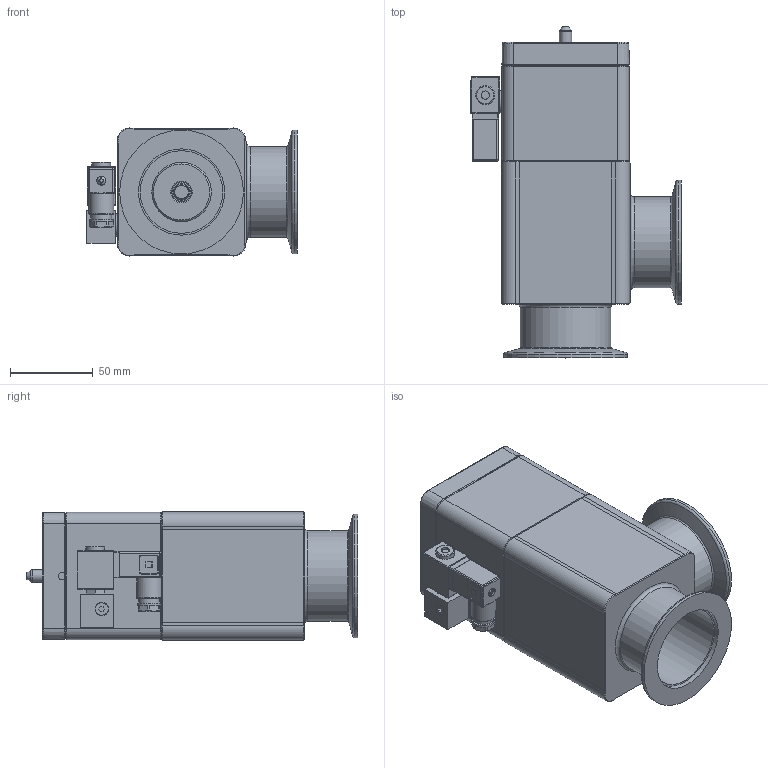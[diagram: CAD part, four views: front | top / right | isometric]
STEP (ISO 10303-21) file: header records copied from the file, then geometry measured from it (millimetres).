
FILE_DESCRIPTION(/* description */ (''),/* implementation_level */ '2;1');
FILE_NAME(/* name */ '1020447636_203.stp',/* time_stamp */ '2013-08-26T14:31:52+02:00',/* author */ (''),/* organization */ (''),/* preprocessor_version */ 'ST-DEVELOPER v11',/* originating_system */ 'SIEMENS PLM Software NX 7.5',/* authorisation */ '');
FILE_SCHEMA (('AP203_CONFIGURATION_CONTROLLED_3D_DESIGN_OF_MECHANICAL_PARTS_AND_ASSEMBLIES_MIM_LF'));
Length unit declared in the file: millimetre
Products named in the file (12): 467882; 437235; 244091.2; 245144.3; 245150; 236204_1.1; 258606.1; 256526.3; 224820.2; N-8501-400.2_MODELNX-ARRAGMNTArrangement 1; 443457; 702537
Assembly tree (15 placements, depth 4):
  702537
    224820.2  x4
    256526.3
    258606.1
    236204_1.1  x2
    245150
    245144.3
    443457
      244091.2
      N-8501-400.2_MODELNX-ARRAGMNTArrangement 1
        437235
        467882
Bounding box: 127.35 x 200.99 x 77.6 mm (x, y, z)
Volume: 538077.4 mm3; surface area: 184796.7 mm2
Topology: 22 solids, 23 shells, 827 faces, 2019 edges, 1297 vertices
Faces by surface type: plane 496, cylinder 149, cone 139, bspline 24, torus 14, sphere 5
Full cylindrical faces by diameter (mm): 2 x1, 2.5 x5, 2.8 x1, 2.95 x1, 3 x5, 4.2 x1, 4.22 x1, 4.6 x1, 4.7 x2, 4.96 x4, 5 x12, 5.5 x1, 5.6 x2, 6 x8, 6.6 x4, 7.4 x2, 7.6 x1, 7.9 x1, 8 x3, 8.175 x1, 9.1 x1, 10 x5, 10.2 x1, 11.3 x1, 11.4 x1, 11.5 x1, 11.975 x3, 12.015 x2, 12.5 x1, 13.5 x1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
Entity records: 25442 total; most frequent: CARTESIAN_POINT 5410, DIRECTION 3482, ORIENTED_EDGE 3338, EDGE_CURVE 1669, AXIS2_PLACEMENT_3D 1228, VERTEX_POINT 1171, LINE 1026, VECTOR 1026
